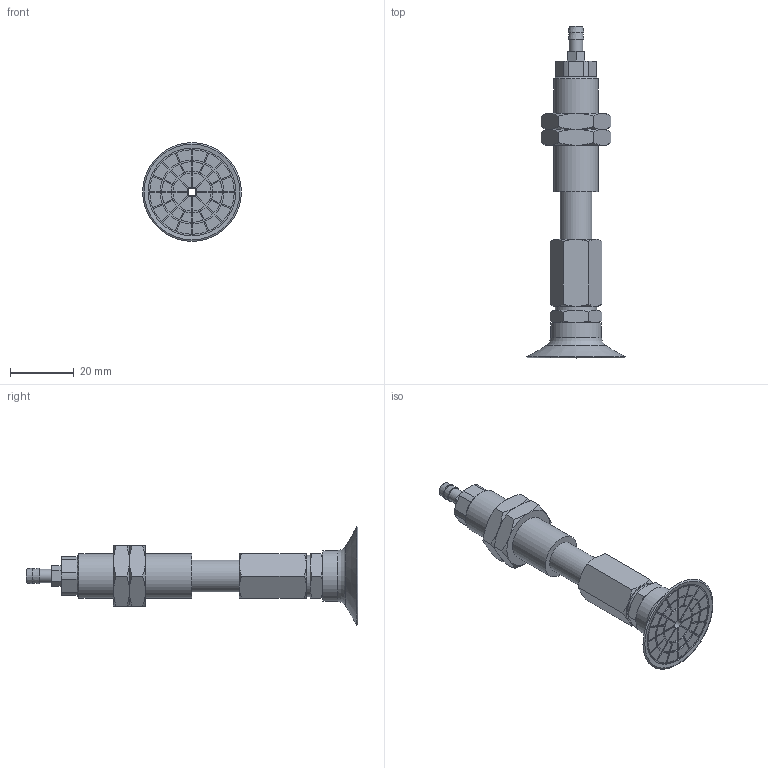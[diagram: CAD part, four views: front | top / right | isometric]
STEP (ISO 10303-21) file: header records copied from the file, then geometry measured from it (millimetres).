
FILE_DESCRIPTION(('STEP AP203'),'1');
FILE_NAME('-T.stp','2025-08-26T09:08:52',(' '),(' '),'Spatial InterOp 3D',' ',' ');
FILE_SCHEMA(('CONFIG_CONTROL_DESIGN'));
Length unit declared in the file: millimetre
Products named in the file (8): BNABPATS-30B-15-※-T; ADAPTER; NAPATS-30B-15--M; NAPATS-30B-15--F; Nut-25-S; TN-PA-30B-M6; T; BPAG-30B-※_3D
Assembly tree (8 placements, depth 2):
  BNABPATS-30B-15-※-T
    ADAPTER
    NAPATS-30B-15--M
    NAPATS-30B-15--F
    Nut-25-S  x2
    TN-PA-30B-M6
    T
    BPAG-30B-※_3D
Bounding box: 31.04 x 104.2 x 31.04 mm (x, y, z)
Volume: 16154.9 mm3; surface area: 12499.1 mm2
Topology: 8 solids, 8 shells, 366 faces, 846 edges, 541 vertices
Faces by surface type: plane 197, cylinder 100, cone 63, torus 6
Full cylindrical faces by diameter (mm): 2.5 x1, 3 x4, 4.134 x1, 4.3 x1, 4.917 x1, 5 x1, 6 x3, 10 x4, 12.917 x2, 13 x1, 14 x1, 16 x1, 27.5 x1
Entity records: 10167 total; most frequent: CARTESIAN_POINT 1994, DIRECTION 1657, ORIENTED_EDGE 1502, EDGE_CURVE 751, AXIS2_PLACEMENT_3D 626, VERTEX_POINT 507, EDGE_LOOP 442, LINE 405
